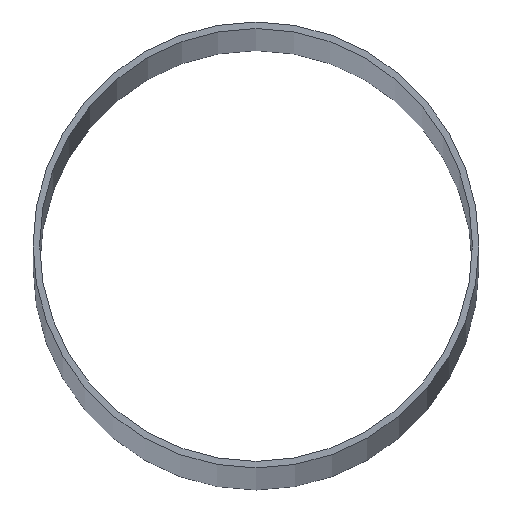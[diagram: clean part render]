
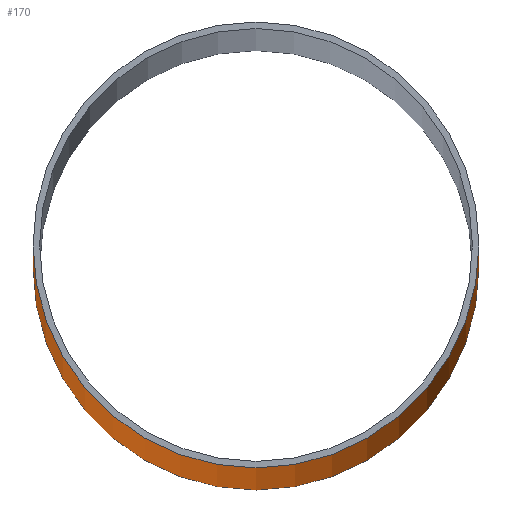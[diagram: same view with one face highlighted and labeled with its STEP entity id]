
A CAD part, top view. The second image highlights one B-rep face of the part: STEP entity #170.
In plain terms, the highlighted cylindrical face has radius 102.25 mm (diameter 204.5 mm), a partial arc.
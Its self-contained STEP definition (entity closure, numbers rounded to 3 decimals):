
#25=CARTESIAN_POINT('',(0.,0.,-2900.));
#26=DIRECTION('',(0.,0.,1.));
#27=DIRECTION('',(-1.,0.,0.));
#28=AXIS2_PLACEMENT_3D('',#25,#26,#27);
#49=DIRECTION('',(0.,0.,1.));
#50=VECTOR('',#49,5800.);
#51=CARTESIAN_POINT('',(102.25,0.,-2900.));
#52=LINE('',#51,#50);
#56=DIRECTION('',(0.,0.,1.));
#57=VECTOR('',#56,5800.);
#58=CARTESIAN_POINT('',(-102.25,0.,-2900.));
#59=LINE('',#58,#57);
#71=CARTESIAN_POINT('',(0.,0.,2900.));
#72=DIRECTION('',(0.,0.,1.));
#73=DIRECTION('',(-1.,0.,0.));
#74=AXIS2_PLACEMENT_3D('',#71,#72,#73);
#109=CARTESIAN_POINT('',(102.25,0.,-2900.));
#110=CARTESIAN_POINT('',(-102.25,0.,-2900.));
#111=VERTEX_POINT('',#109);
#112=VERTEX_POINT('',#110);
#117=CARTESIAN_POINT('',(102.25,0.,2900.));
#118=CARTESIAN_POINT('',(-102.25,0.,2900.));
#119=VERTEX_POINT('',#117);
#120=VERTEX_POINT('',#118);
#158=CARTESIAN_POINT('',(0.,0.,-2900.));
#159=DIRECTION('',(0.,0.,1.));
#160=DIRECTION('',(1.,0.,0.));
#161=AXIS2_PLACEMENT_3D('',#158,#159,#160);
#162=CYLINDRICAL_SURFACE('',#161,102.25);
#163=ORIENTED_EDGE('',*,*,#132,.F.);
#164=ORIENTED_EDGE('',*,*,#153,.T.);
#166=ORIENTED_EDGE('',*,*,#165,.T.);
#167=ORIENTED_EDGE('',*,*,#149,.F.);
#168=EDGE_LOOP('',(#163,#164,#166,#167));
#169=FACE_OUTER_BOUND('',#168,.F.);
#29=CIRCLE('',#28,102.25);
#75=CIRCLE('',#74,102.25);
#132=EDGE_CURVE('',#112,#111,#29,.T.);
#149=EDGE_CURVE('',#111,#119,#52,.T.);
#153=EDGE_CURVE('',#112,#120,#59,.T.);
#165=EDGE_CURVE('',#120,#119,#75,.T.);
#170=ADVANCED_FACE('',(#169),#162,.T.);
